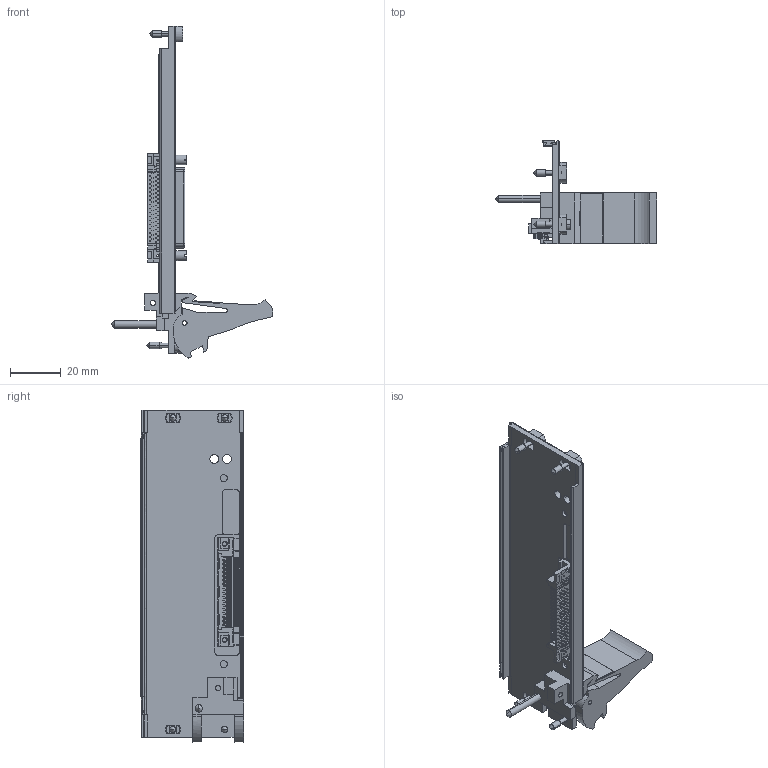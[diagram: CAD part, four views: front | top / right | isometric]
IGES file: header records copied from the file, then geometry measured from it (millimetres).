
Start section:  PTC IGES file: cu_pxie-6570.igs
Global section: file name: cu_pxie-6570.igs; native system: Creo Parametric by PTC Inc.; preprocessor: 2015380; author: jjorden; organization: Unknown; date: 20160926.132504; units: inch
Bounding box: 63.53 x 40.58 x 130.52 mm (x, y, z)
Surface area: 24371.3 mm2 (no closed solid volume)
Topology: 0 solids, 0 shells, 2209 faces, 12118 edges, 12108 vertices
Faces by surface type: bspline 1689, revolution 520
